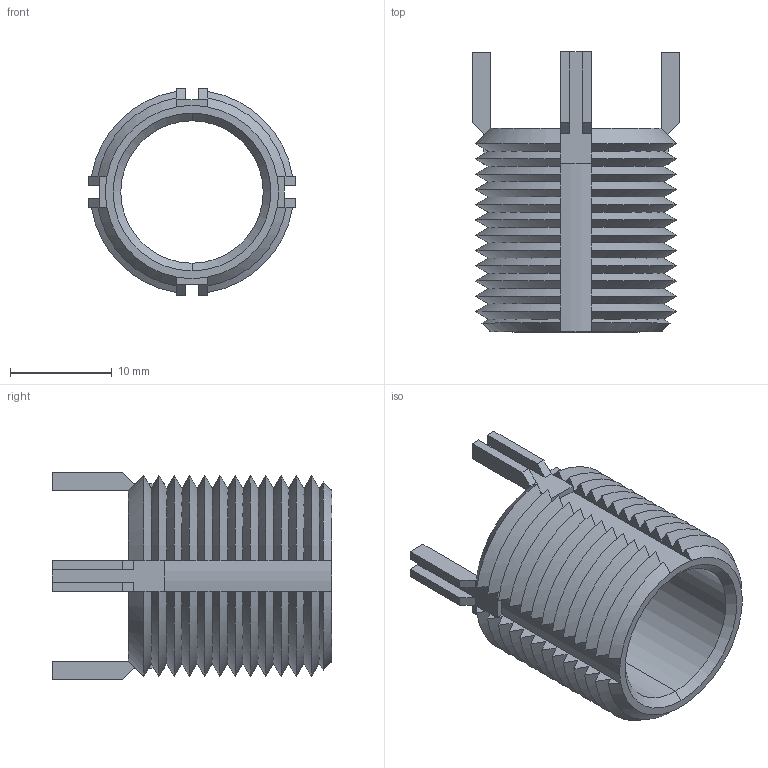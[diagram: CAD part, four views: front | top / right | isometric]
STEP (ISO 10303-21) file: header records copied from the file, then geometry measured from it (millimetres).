
FILE_DESCRIPTION (( 'STEP AP203' ), '1' );
FILE_NAME ('22002.W5701.step', '2020-01-04T21:35:52', ( '' ), ( '' ), 'SwSTEP 2.0', 'SolidWorks 2017', '' );
FILE_SCHEMA (( 'CONFIG_CONTROL_DESIGN' ));
Length unit declared in the file: millimetre
Products named in the file (1): 22002.W5701
Bounding box: 20.33 x 27.5 x 20.33 mm (x, y, z)
Volume: 2311.4 mm3; surface area: 3525.1 mm2
Topology: 1 solids, 1 shells, 204 faces, 546 edges, 344 vertices
Faces by surface type: cone 108, plane 90, cylinder 6
Entity records: 6639 total; most frequent: CARTESIAN_POINT 1875, ORIENTED_EDGE 1092, DIRECTION 832, EDGE_CURVE 546, VERTEX_POINT 344, AXIS2_PLACEMENT_3D 329, B_SPLINE_CURVE_WITH_KNOTS 248, EDGE_LOOP 206
